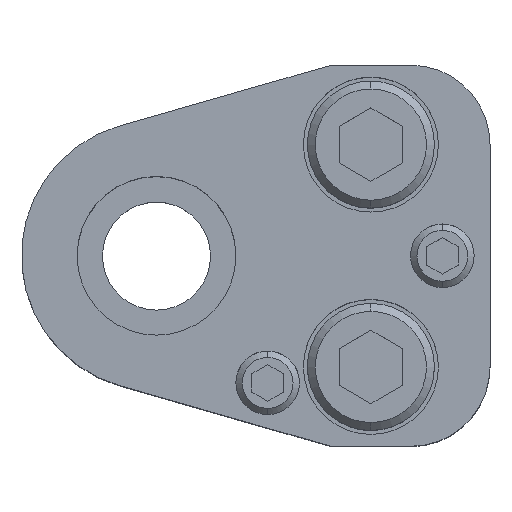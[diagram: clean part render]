
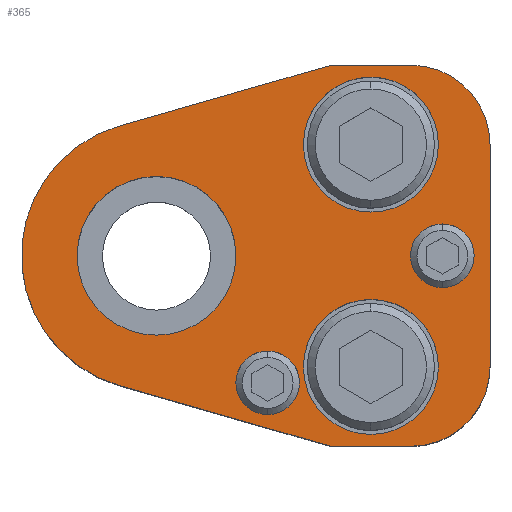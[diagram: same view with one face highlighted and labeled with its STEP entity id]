
A CAD part, top view. The second image highlights one B-rep face of the part: STEP entity #365.
In plain terms, the highlighted planar face has unit normal (0, 0, 1).
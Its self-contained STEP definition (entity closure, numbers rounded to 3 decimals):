
#134=PLANE('',#2757);
#204=FACE_BOUND('',#701,.T.);
#205=FACE_BOUND('',#702,.T.);
#206=FACE_BOUND('',#703,.T.);
#207=FACE_BOUND('',#704,.T.);
#208=FACE_BOUND('',#705,.T.);
#209=FACE_BOUND('',#706,.T.);
#365=ADVANCED_FACE('',(#204,#205,#206,#207,#208,#209),#134,.T.);
#701=EDGE_LOOP('',(#1265,#1266,#1267,#1268,#1269,#1270,#1271,#1272));
#702=EDGE_LOOP('',(#1273,#1274));
#703=EDGE_LOOP('',(#1275,#1276));
#704=EDGE_LOOP('',(#1277,#1278));
#705=EDGE_LOOP('',(#1279,#1280));
#706=EDGE_LOOP('',(#1281,#1282));
#859=CIRCLE('',#2700,17.);
#861=CIRCLE('',#2705,10.);
#863=CIRCLE('',#2709,10.);
#881=CIRCLE('',#2737,8.5);
#883=CIRCLE('',#2740,8.5);
#885=CIRCLE('',#2744,8.5);
#887=CIRCLE('',#2747,8.5);
#889=CIRCLE('',#2751,4.);
#890=CIRCLE('',#2752,4.);
#891=CIRCLE('',#2753,4.);
#892=CIRCLE('',#2754,4.);
#893=CIRCLE('',#2755,10.);
#894=CIRCLE('',#2756,10.);
#1265=ORIENTED_EDGE('',*,*,#1976,.T.);
#1266=ORIENTED_EDGE('',*,*,#1980,.T.);
#1267=ORIENTED_EDGE('',*,*,#1983,.T.);
#1268=ORIENTED_EDGE('',*,*,#1986,.T.);
#1269=ORIENTED_EDGE('',*,*,#1989,.T.);
#1270=ORIENTED_EDGE('',*,*,#1992,.T.);
#1271=ORIENTED_EDGE('',*,*,#1995,.T.);
#1272=ORIENTED_EDGE('',*,*,#1998,.T.);
#1273=ORIENTED_EDGE('',*,*,#2033,.F.);
#1274=ORIENTED_EDGE('',*,*,#2034,.F.);
#1275=ORIENTED_EDGE('',*,*,#2035,.F.);
#1276=ORIENTED_EDGE('',*,*,#2036,.F.);
#1277=ORIENTED_EDGE('',*,*,#2031,.F.);
#1278=ORIENTED_EDGE('',*,*,#2027,.F.);
#1279=ORIENTED_EDGE('',*,*,#2025,.F.);
#1280=ORIENTED_EDGE('',*,*,#2021,.F.);
#1281=ORIENTED_EDGE('',*,*,#2037,.T.);
#1282=ORIENTED_EDGE('',*,*,#2038,.T.);
#1716=VERTEX_POINT('',#3980);
#1717=VERTEX_POINT('',#3982);
#1720=VERTEX_POINT('',#3989);
#1722=VERTEX_POINT('',#3995);
#1724=VERTEX_POINT('',#4001);
#1726=VERTEX_POINT('',#4007);
#1728=VERTEX_POINT('',#4013);
#1730=VERTEX_POINT('',#4019);
#1747=VERTEX_POINT('',#4072);
#1748=VERTEX_POINT('',#4073);
#1751=VERTEX_POINT('',#4085);
#1752=VERTEX_POINT('',#4086);
#1755=VERTEX_POINT('',#4098);
#1756=VERTEX_POINT('',#4099);
#1757=VERTEX_POINT('',#4102);
#1758=VERTEX_POINT('',#4103);
#1759=VERTEX_POINT('',#4106);
#1760=VERTEX_POINT('',#4107);
#1976=EDGE_CURVE('',#1717,#1716,#859,.T.);
#1980=EDGE_CURVE('',#1716,#1720,#2266,.T.);
#1983=EDGE_CURVE('',#1720,#1722,#2269,.T.);
#1986=EDGE_CURVE('',#1722,#1724,#861,.T.);
#1989=EDGE_CURVE('',#1724,#1726,#2273,.T.);
#1992=EDGE_CURVE('',#1726,#1728,#863,.T.);
#1995=EDGE_CURVE('',#1728,#1730,#2277,.T.);
#1998=EDGE_CURVE('',#1730,#1717,#2280,.T.);
#2021=EDGE_CURVE('',#1747,#1748,#881,.T.);
#2025=EDGE_CURVE('',#1748,#1747,#883,.T.);
#2027=EDGE_CURVE('',#1751,#1752,#885,.T.);
#2031=EDGE_CURVE('',#1752,#1751,#887,.T.);
#2033=EDGE_CURVE('',#1755,#1756,#889,.T.);
#2034=EDGE_CURVE('',#1756,#1755,#890,.T.);
#2035=EDGE_CURVE('',#1757,#1758,#891,.T.);
#2036=EDGE_CURVE('',#1758,#1757,#892,.T.);
#2037=EDGE_CURVE('',#1759,#1760,#893,.T.);
#2038=EDGE_CURVE('',#1760,#1759,#894,.T.);
#2266=LINE('',#3990,#2458);
#2269=LINE('',#3996,#2461);
#2273=LINE('',#4008,#2465);
#2277=LINE('',#4020,#2469);
#2280=LINE('',#4024,#2472);
#2458=VECTOR('',#3164,1.);
#2461=VECTOR('',#3169,1.);
#2465=VECTOR('',#3181,1.);
#2469=VECTOR('',#3193,1.);
#2472=VECTOR('',#3198,1.);
#2700=AXIS2_PLACEMENT_3D('',#3981,#3156,#3157);
#2705=AXIS2_PLACEMENT_3D('',#4002,#3174,#3175);
#2709=AXIS2_PLACEMENT_3D('',#4014,#3186,#3187);
#2737=AXIS2_PLACEMENT_3D('',#4071,#3253,#3254);
#2740=AXIS2_PLACEMENT_3D('',#4080,#3261,#3262);
#2744=AXIS2_PLACEMENT_3D('',#4084,#3269,#3270);
#2747=AXIS2_PLACEMENT_3D('',#4093,#3277,#3278);
#2751=AXIS2_PLACEMENT_3D('',#4097,#3285,#3286);
#2752=AXIS2_PLACEMENT_3D('',#4100,#3287,#3288);
#2753=AXIS2_PLACEMENT_3D('',#4101,#3289,#3290);
#2754=AXIS2_PLACEMENT_3D('',#4104,#3291,#3292);
#2755=AXIS2_PLACEMENT_3D('',#4105,#3293,#3294);
#2756=AXIS2_PLACEMENT_3D('',#4108,#3295,#3296);
#2757=AXIS2_PLACEMENT_3D('',#4109,#3297,#3298);
#3156=DIRECTION('',(0.,0.,1.));
#3157=DIRECTION('',(-0.106,0.994,0.));
#3164=DIRECTION('',(0.961,-0.276,0.));
#3169=DIRECTION('',(1.,0.,0.));
#3174=DIRECTION('',(0.,0.,1.));
#3175=DIRECTION('',(-0.707,0.707,0.));
#3181=DIRECTION('',(0.,1.,0.));
#3186=DIRECTION('',(0.,0.,1.));
#3187=DIRECTION('',(-0.707,-0.707,0.));
#3193=DIRECTION('',(-1.,0.,0.));
#3198=DIRECTION('',(-0.961,-0.276,0.));
#3253=DIRECTION('',(0.,0.,1.));
#3254=DIRECTION('',(-1.,0.,0.));
#3261=DIRECTION('',(0.,0.,1.));
#3262=DIRECTION('',(1.,0.,0.));
#3269=DIRECTION('',(0.,0.,1.));
#3270=DIRECTION('',(-1.,0.,0.));
#3277=DIRECTION('',(0.,0.,1.));
#3278=DIRECTION('',(1.,0.,0.));
#3285=DIRECTION('',(0.,0.,1.));
#3286=DIRECTION('',(1.,0.,0.));
#3287=DIRECTION('',(0.,0.,1.));
#3288=DIRECTION('',(-1.,0.,0.));
#3289=DIRECTION('',(0.,0.,1.));
#3290=DIRECTION('',(1.,0.,0.));
#3291=DIRECTION('',(0.,0.,1.));
#3292=DIRECTION('',(-1.,0.,0.));
#3293=DIRECTION('',(0.,0.,-1.));
#3294=DIRECTION('',(-1.,0.,0.));
#3295=DIRECTION('',(0.,0.,-1.));
#3296=DIRECTION('',(1.,0.,0.));
#3297=DIRECTION('',(0.,0.,1.));
#3298=DIRECTION('',(0.961,0.276,0.));
#3980=CARTESIAN_POINT('',(-4.69,-16.34,35.));
#3981=CARTESIAN_POINT('',(0.,0.,35.));
#3982=CARTESIAN_POINT('',(-4.69,16.34,35.));
#3989=CARTESIAN_POINT('',(22.,-24.,35.));
#3990=CARTESIAN_POINT('',(22.,-24.,35.));
#3995=CARTESIAN_POINT('',(32.,-24.,35.));
#3996=CARTESIAN_POINT('',(32.,-24.,35.));
#4001=CARTESIAN_POINT('',(42.,-14.,35.));
#4002=CARTESIAN_POINT('',(32.,-14.,35.));
#4007=CARTESIAN_POINT('',(42.,14.,35.));
#4008=CARTESIAN_POINT('',(42.,14.,35.));
#4013=CARTESIAN_POINT('',(32.,24.,35.));
#4014=CARTESIAN_POINT('',(32.,14.,35.));
#4019=CARTESIAN_POINT('',(22.,24.,35.));
#4020=CARTESIAN_POINT('',(32.,24.,35.));
#4024=CARTESIAN_POINT('',(22.,24.,35.));
#4071=CARTESIAN_POINT('',(27.,14.,35.));
#4072=CARTESIAN_POINT('',(27.,5.5,35.));
#4073=CARTESIAN_POINT('',(27.,22.5,35.));
#4080=CARTESIAN_POINT('',(27.,14.,35.));
#4084=CARTESIAN_POINT('',(27.,-14.,35.));
#4085=CARTESIAN_POINT('',(27.,-22.5,35.));
#4086=CARTESIAN_POINT('',(27.,-5.5,35.));
#4093=CARTESIAN_POINT('',(27.,-14.,35.));
#4097=CARTESIAN_POINT('',(14.,-16.,35.));
#4098=CARTESIAN_POINT('',(14.,-12.,35.));
#4099=CARTESIAN_POINT('',(14.,-20.,35.));
#4100=CARTESIAN_POINT('',(14.,-16.,35.));
#4101=CARTESIAN_POINT('',(36.,0.,35.));
#4102=CARTESIAN_POINT('',(36.,4.,35.));
#4103=CARTESIAN_POINT('',(36.,-4.,35.));
#4104=CARTESIAN_POINT('',(36.,0.,35.));
#4105=CARTESIAN_POINT('',(0.,0.,35.));
#4106=CARTESIAN_POINT('',(0.,10.,35.));
#4107=CARTESIAN_POINT('',(0.,-10.,35.));
#4108=CARTESIAN_POINT('',(0.,0.,35.));
#4109=CARTESIAN_POINT('',(-4.69,16.34,35.));
